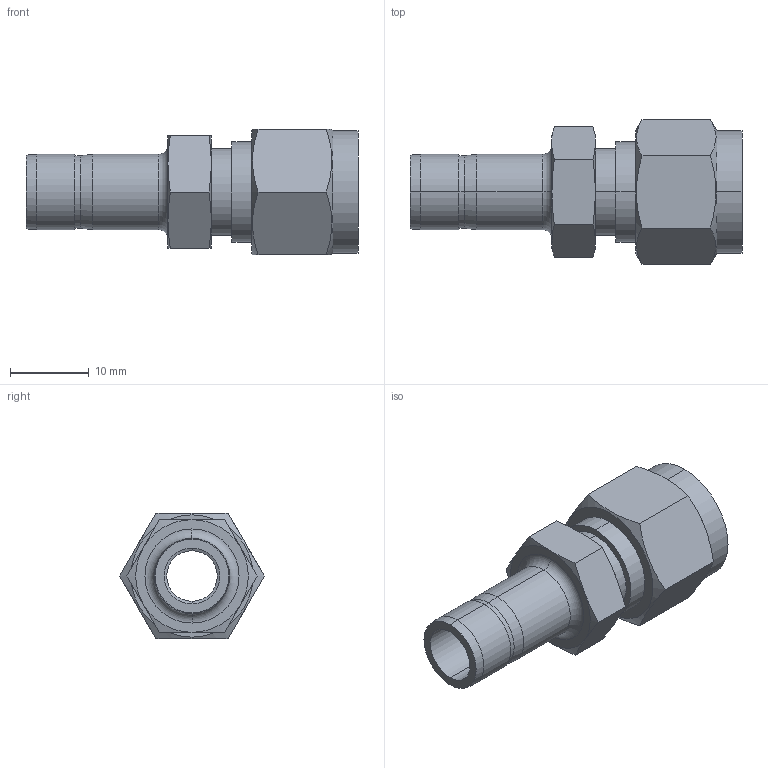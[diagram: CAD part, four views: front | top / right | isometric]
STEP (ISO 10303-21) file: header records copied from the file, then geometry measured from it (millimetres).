
FILE_DESCRIPTION (( 'STEP AP203' ), '1' );
FILE_NAME ('DRE05-06 SS.STEP', '2009-09-08T08:37:42', ( ' ' ), ( '' ), 'SwSTEP 2.0', 'SolidWorks 2008', '' );
FILE_SCHEMA (( 'CONFIG_CONTROL_DESIGN' ));
Length unit declared in the file: millimetre
Products named in the file (1): DRE05-06 SS
Bounding box: 42.1 x 18.34 x 15.88 mm (x, y, z)
Volume: 3876.7 mm3; surface area: 3170.8 mm2
Topology: 1 solids, 1 shells, 63 faces, 138 edges, 82 vertices
Faces by surface type: cone 24, plane 19, cylinder 18, torus 2
Entity records: 1917 total; most frequent: CARTESIAN_POINT 492, DIRECTION 282, ORIENTED_EDGE 276, EDGE_CURVE 138, AXIS2_PLACEMENT_3D 120, VERTEX_POINT 82, EDGE_LOOP 70, ADVANCED_FACE 63
